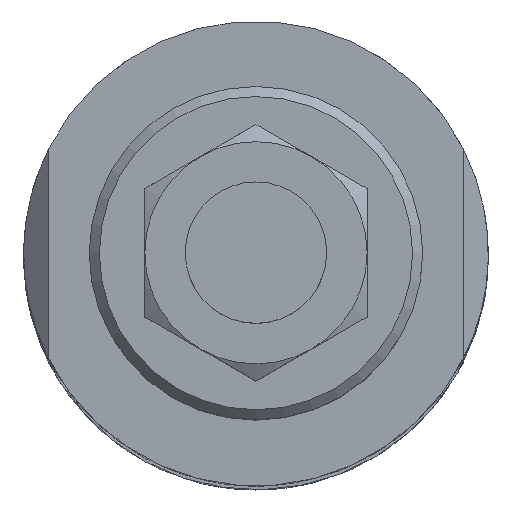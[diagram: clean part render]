
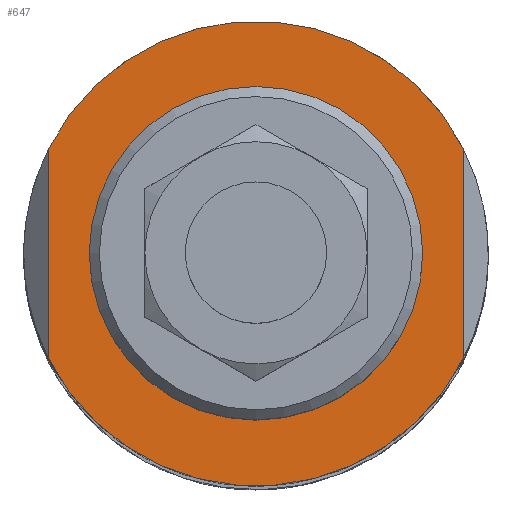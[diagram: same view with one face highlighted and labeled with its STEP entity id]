
A CAD part, top view. The second image highlights one B-rep face of the part: STEP entity #647.
In plain terms, the highlighted planar face has unit normal (0, 0, 1).
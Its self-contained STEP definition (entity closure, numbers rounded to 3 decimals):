
#531=CARTESIAN_POINT('',(-20.5,10.428,263.0));
#532=VERTEX_POINT('',#531);
#540=CARTESIAN_POINT('',(-20.5,-10.428,263.0));
#541=VERTEX_POINT('',#540);
#548=CARTESIAN_POINT('',(-20.5,10.428,263.0));
#549=DIRECTION('',(0.0,-1.0,0.0));
#550=VECTOR('',#549,20.857);
#551=LINE('',#548,#550);
#552=EDGE_CURVE('',#532,#541,#551,.T.);
#587=CARTESIAN_POINT('',(20.5,-10.428,263.0));
#588=VERTEX_POINT('',#587);
#596=CARTESIAN_POINT('',(20.5,10.428,263.0));
#597=VERTEX_POINT('',#596);
#604=CARTESIAN_POINT('',(20.5,-10.428,263.0));
#605=DIRECTION('',(0.0,1.0,0.0));
#606=VECTOR('',#605,20.857);
#607=LINE('',#604,#606);
#608=EDGE_CURVE('',#588,#597,#607,.T.);
#613=CARTESIAN_POINT('',(0.0,0.0,263.0));
#614=DIRECTION('',(0.0,0.0,-1.0));
#615=DIRECTION('',(-1.0,0.0,0.0));
#616=AXIS2_PLACEMENT_3D('',#613,#614,#615);
#617=PLANE('',#616);
#618=ORIENTED_EDGE('',*,*,#552,.T.);
#619=CARTESIAN_POINT('',(0.0,0.0,263.0));
#620=DIRECTION('',(0.0,0.0,-1.0));
#621=DIRECTION('',(-1.0,0.0,0.0));
#622=AXIS2_PLACEMENT_3D('',#619,#620,#621);
#623=CIRCLE('',#622,23.);
#624=EDGE_CURVE('',#588,#541,#623,.T.);
#625=ORIENTED_EDGE('',*,*,#624,.F.);
#626=ORIENTED_EDGE('',*,*,#608,.T.);
#627=CARTESIAN_POINT('',(0.0,0.0,263.0));
#628=DIRECTION('',(0.0,0.0,-1.0));
#629=DIRECTION('',(-1.0,0.0,0.0));
#630=AXIS2_PLACEMENT_3D('',#627,#628,#629);
#631=CIRCLE('',#630,23.);
#632=EDGE_CURVE('',#532,#597,#631,.T.);
#633=ORIENTED_EDGE('',*,*,#632,.F.);
#634=EDGE_LOOP('',(#618,#625,#626,#633));
#635=FACE_OUTER_BOUND('',#634,.T.);
#636=CARTESIAN_POINT('',(16.5,0.,263.0));
#637=VERTEX_POINT('',#636);
#638=CARTESIAN_POINT('',(0.0,0.0,263.0));
#639=DIRECTION('',(0.0,0.0,-1.0));
#640=DIRECTION('',(-1.0,0.0,0.0));
#641=AXIS2_PLACEMENT_3D('',#638,#639,#640);
#642=CIRCLE('',#641,16.5);
#643=EDGE_CURVE('',#637,#637,#642,.T.);
#644=ORIENTED_EDGE('',*,*,#643,.T.);
#645=EDGE_LOOP('',(#644));
#646=FACE_BOUND('',#645,.T.);
#647=ADVANCED_FACE('',(#635,#646),#617,.F.);
